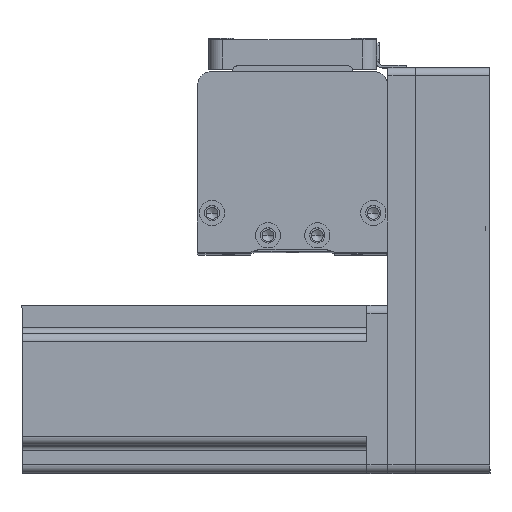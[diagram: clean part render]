
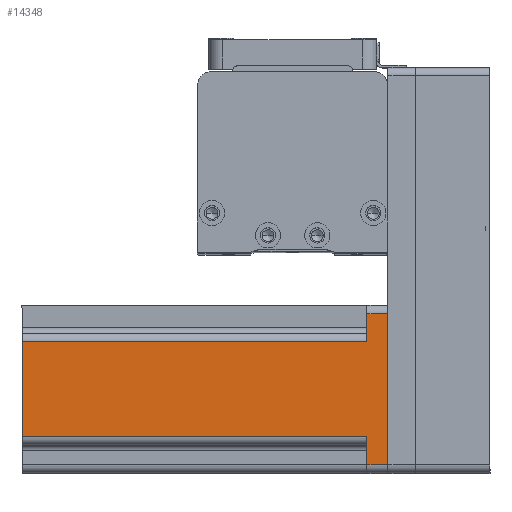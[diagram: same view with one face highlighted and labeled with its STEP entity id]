
A CAD part, top view. The second image highlights one B-rep face of the part: STEP entity #14348.
In plain terms, the highlighted planar face has unit normal (0, 0, 1) as drawn and (0, 1, 0) by its records, which use the part's own axes.
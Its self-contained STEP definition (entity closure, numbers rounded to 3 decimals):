
#740 = VERTEX_POINT ( 'NONE', #39931 ) ;
#1519 = CARTESIAN_POINT ( 'NONE',  ( 20., 30., 7.5 ) ) ;
#1890 = EDGE_CURVE ( 'NONE', #21995, #25900, #10844, .T. ) ;
#3633 = DIRECTION ( 'NONE',  ( 0., -1., 0. ) ) ;
#3766 = CARTESIAN_POINT ( 'NONE',  ( 17., 30., 7.5 ) ) ;
#3774 = EDGE_CURVE ( 'NONE', #740, #6663, #41064, .T. ) ;
#4980 = DIRECTION ( 'NONE',  ( -1., 0., 0. ) ) ;
#5684 = AXIS2_PLACEMENT_3D ( 'NONE', #24098, #3633, #27479 ) ;
#6159 = EDGE_CURVE ( 'NONE', #22622, #43695, #34634, .T. ) ;
#6377 = CARTESIAN_POINT ( 'NONE',  ( -20., 30., 7.5 ) ) ;
#6557 = EDGE_CURVE ( 'NONE', #35063, #41707, #7959, .T. ) ;
#6663 = VERTEX_POINT ( 'NONE', #28061 ) ;
#6774 = LINE ( 'NONE', #39925, #40909 ) ;
#7141 = DIRECTION ( 'NONE',  ( 0., 0., 1. ) ) ;
#7959 = LINE ( 'NONE', #27319, #15993 ) ;
#8270 = CARTESIAN_POINT ( 'NONE',  ( -27., 30., 7.5 ) ) ;
#8914 = LINE ( 'NONE', #1519, #34968 ) ;
#9263 = DIRECTION ( 'NONE',  ( -1., 0., 0. ) ) ;
#9570 = ORIENTED_EDGE ( 'NONE', *, *, #39253, .F. ) ;
#9804 = DIRECTION ( 'NONE',  ( 1., 0., 0. ) ) ;
#10572 = CARTESIAN_POINT ( 'NONE',  ( -17., 30., 130.7 ) ) ;
#10844 = LINE ( 'NONE', #34830, #27897 ) ;
#14348 = ADVANCED_FACE ( 'NONE', ( #39372 ), #34162, .F. ) ;
#15099 = ORIENTED_EDGE ( 'NONE', *, *, #1890, .T. ) ;
#15508 = CARTESIAN_POINT ( 'NONE',  ( 27., 30., 0. ) ) ;
#15993 = VECTOR ( 'NONE', #20521, 1000. ) ;
#16298 = CARTESIAN_POINT ( 'NONE',  ( 27., 30., 7.5 ) ) ;
#17073 = DIRECTION ( 'NONE',  ( -1., 0., 0. ) ) ;
#18050 = CARTESIAN_POINT ( 'NONE',  ( 17., 30., 130.7 ) ) ;
#20521 = DIRECTION ( 'NONE',  ( 0., 0., 1. ) ) ;
#21738 = CARTESIAN_POINT ( 'NONE',  ( -27., 30., 0. ) ) ;
#21995 = VERTEX_POINT ( 'NONE', #16298 ) ;
#22622 = VERTEX_POINT ( 'NONE', #36393 ) ;
#24098 = CARTESIAN_POINT ( 'NONE',  ( 30., 30., 130.7 ) ) ;
#24458 = LINE ( 'NONE', #40872, #42608 ) ;
#24957 = VECTOR ( 'NONE', #9804, 1000. ) ;
#25623 = VECTOR ( 'NONE', #28256, 1000. ) ;
#25900 = VERTEX_POINT ( 'NONE', #15508 ) ;
#25998 = LINE ( 'NONE', #6377, #24957 ) ;
#27319 = CARTESIAN_POINT ( 'NONE',  ( -27., 30., 130.7 ) ) ;
#27479 = DIRECTION ( 'NONE',  ( 1., 0., 0. ) ) ;
#27897 = VECTOR ( 'NONE', #38251, 1000. ) ;
#28061 = CARTESIAN_POINT ( 'NONE',  ( -17., 30., 130.7 ) ) ;
#28256 = DIRECTION ( 'NONE',  ( 0., 0., -1. ) ) ;
#28529 = ORIENTED_EDGE ( 'NONE', *, *, #42505, .F. ) ;
#29456 = ORIENTED_EDGE ( 'NONE', *, *, #38827, .T. ) ;
#29565 = EDGE_LOOP ( 'NONE', ( #29456, #32113, #28529, #37461, #9570, #15099, #31514, #32318 ) ) ;
#31514 = ORIENTED_EDGE ( 'NONE', *, *, #42052, .T. ) ;
#31972 = VECTOR ( 'NONE', #7141, 1000. ) ;
#32113 = ORIENTED_EDGE ( 'NONE', *, *, #3774, .T. ) ;
#32318 = ORIENTED_EDGE ( 'NONE', *, *, #6557, .T. ) ;
#34162 = PLANE ( 'NONE',  #5684 ) ;
#34634 = LINE ( 'NONE', #18050, #25623 ) ;
#34830 = CARTESIAN_POINT ( 'NONE',  ( 27., 30., 130.7 ) ) ;
#34968 = VECTOR ( 'NONE', #4980, 1000. ) ;
#35063 = VERTEX_POINT ( 'NONE', #21738 ) ;
#36393 = CARTESIAN_POINT ( 'NONE',  ( 17., 30., 130.7 ) ) ;
#37461 = ORIENTED_EDGE ( 'NONE', *, *, #6159, .T. ) ;
#38251 = DIRECTION ( 'NONE',  ( 0., 0., -1. ) ) ;
#38827 = EDGE_CURVE ( 'NONE', #41707, #740, #25998, .T. ) ;
#39253 = EDGE_CURVE ( 'NONE', #21995, #43695, #8914, .T. ) ;
#39372 = FACE_OUTER_BOUND ( 'NONE', #29565, .T. ) ;
#39925 = CARTESIAN_POINT ( 'NONE',  ( 30., 30., 130.7 ) ) ;
#39931 = CARTESIAN_POINT ( 'NONE',  ( -17., 30., 7.5 ) ) ;
#40872 = CARTESIAN_POINT ( 'NONE',  ( 30., 30., 0. ) ) ;
#40909 = VECTOR ( 'NONE', #9263, 1000. ) ;
#41064 = LINE ( 'NONE', #10572, #31972 ) ;
#41707 = VERTEX_POINT ( 'NONE', #8270 ) ;
#42052 = EDGE_CURVE ( 'NONE', #25900, #35063, #24458, .T. ) ;
#42505 = EDGE_CURVE ( 'NONE', #22622, #6663, #6774, .T. ) ;
#42608 = VECTOR ( 'NONE', #17073, 1000. ) ;
#43695 = VERTEX_POINT ( 'NONE', #3766 ) ;
